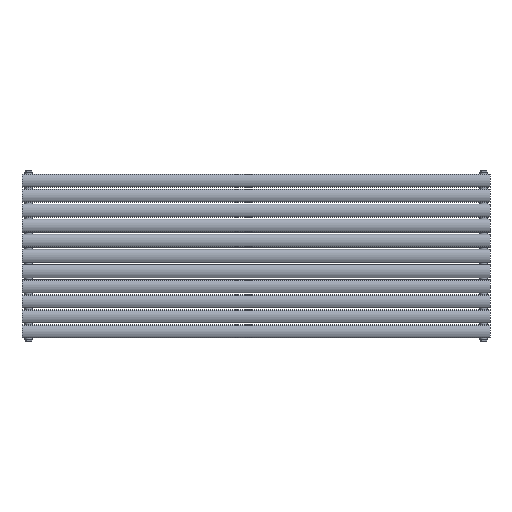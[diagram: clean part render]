
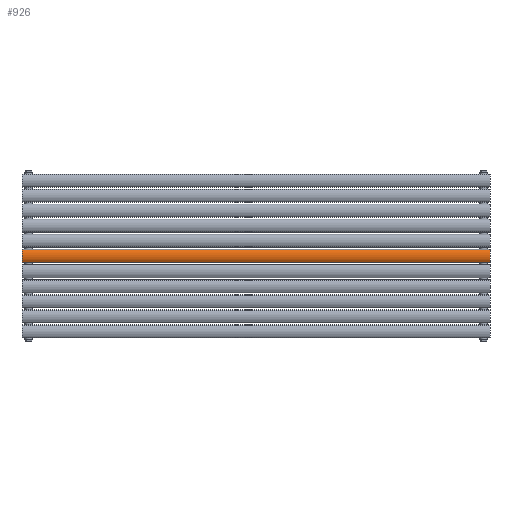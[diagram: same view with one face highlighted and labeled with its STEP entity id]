
A CAD part, top view. The second image highlights one B-rep face of the part: STEP entity #926.
In plain terms, the highlighted cylindrical face has radius 39.5 mm (diameter 79 mm), a partial arc.
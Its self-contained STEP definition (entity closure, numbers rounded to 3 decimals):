
#99=LINE('',#2376,#131);
#100=LINE('',#2380,#132);
#131=VECTOR('',#1185,10.);
#132=VECTOR('',#1188,10.);
#209=CIRCLE('',#1031,39.5);
#210=CIRCLE('',#1032,39.5);
#305=FACE_OUTER_BOUND('',#394,.T.);
#394=EDGE_LOOP('',(#767,#768,#769,#770));
#516=VERTEX_POINT('',#2374);
#517=VERTEX_POINT('',#2375);
#518=VERTEX_POINT('',#2377);
#519=VERTEX_POINT('',#2379);
#608=EDGE_CURVE('',#516,#517,#99,.T.);
#609=EDGE_CURVE('',#518,#516,#209,.T.);
#610=EDGE_CURVE('',#519,#518,#100,.T.);
#611=EDGE_CURVE('',#517,#519,#210,.T.);
#767=ORIENTED_EDGE('',*,*,#608,.F.);
#768=ORIENTED_EDGE('',*,*,#609,.F.);
#769=ORIENTED_EDGE('',*,*,#610,.F.);
#770=ORIENTED_EDGE('',*,*,#611,.F.);
#896=CYLINDRICAL_SURFACE('',#1030,39.5);
#926=ADVANCED_FACE('',(#305),#896,.T.);
#1030=AXIS2_PLACEMENT_3D('',#2373,#1183,#1184);
#1031=AXIS2_PLACEMENT_3D('',#2378,#1186,#1187);
#1032=AXIS2_PLACEMENT_3D('',#2381,#1189,#1190);
#1183=DIRECTION('center_axis',(0.,0.,1.));
#1184=DIRECTION('ref_axis',(-0.552,-0.834,0.));
#1185=DIRECTION('',(0.,0.,-1.));
#1186=DIRECTION('center_axis',(0.,0.,1.));
#1187=DIRECTION('ref_axis',(-0.552,-0.834,0.));
#1188=DIRECTION('',(0.,0.,1.));
#1189=DIRECTION('center_axis',(0.,0.,-1.));
#1190=DIRECTION('ref_axis',(-0.552,-0.834,0.));
#2373=CARTESIAN_POINT('Origin',(0.,14.5,0.));
#2374=CARTESIAN_POINT('',(21.816,-18.429,900.));
#2375=CARTESIAN_POINT('',(21.816,-18.429,-900.));
#2376=CARTESIAN_POINT('',(21.816,-18.429,0.));
#2377=CARTESIAN_POINT('',(-21.816,-18.429,900.));
#2378=CARTESIAN_POINT('Origin',(0.,14.5,900.));
#2379=CARTESIAN_POINT('',(-21.816,-18.429,-900.));
#2380=CARTESIAN_POINT('',(-21.816,-18.429,0.));
#2381=CARTESIAN_POINT('Origin',(0.,14.5,-900.));
